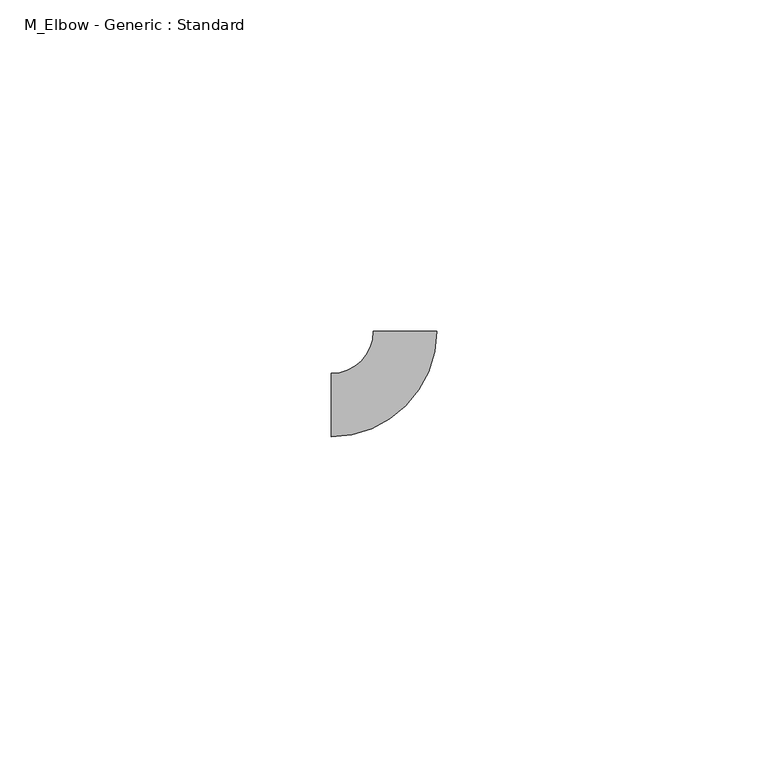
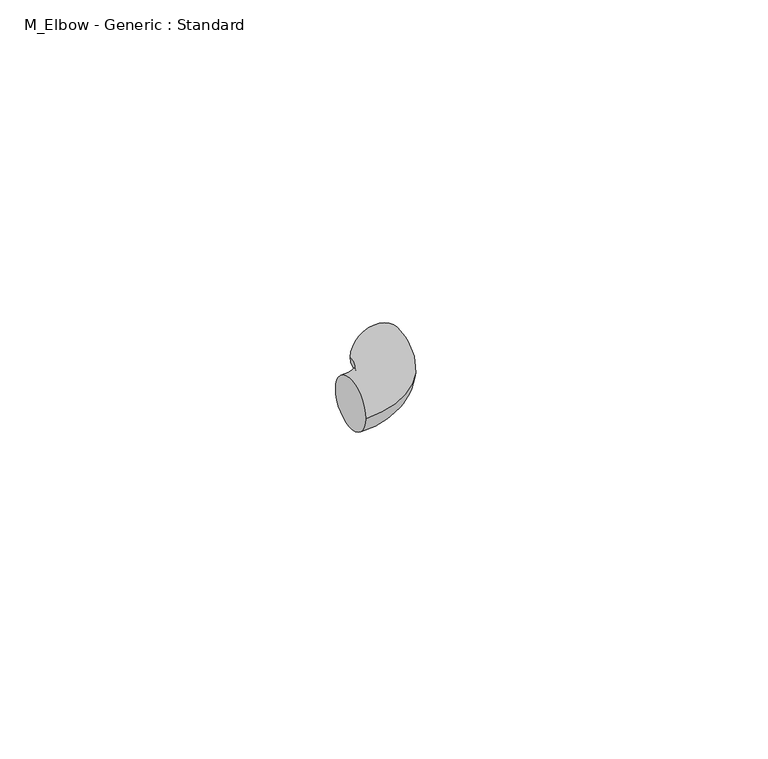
"""IFC4 building model written with IfcOpenShell, lengths in millimetres: pipe fitting geometry, M_Elbow - Generic : Standard."""

from ifc_helpers import new_model, si_unit, point, frame, origin, place, context, project, spatial, circle_curve, ellipse_curve, trimmed, source, transform, mapped, element, save
from ifc_brep_helpers import plane_surface, revolved_surface, advanced_brep


def m_elbow_generic_standard_b13e6fab(model_context):
    return source(origin(), model_context, "Body", "AdvancedBrep", [
        advanced_brep(
        [(-11.1118614, -4.7625, 0.0), (-11.1118614, 4.7625, 0.0), (4.7631385, 11.1115877, 0.0), (-4.7618614, 11.1121351, 0.0)],
        [
            (0, 1, circle_curve(frame((-11.1118614, 0.0, 0.0), z_axis=(-1.0, 0.0, 0.0), x_axis=(0.0, 1.0, 0.0)), 4.7625)),
            (1, 0, circle_curve(frame((-11.1118614, 0.0, 0.0), z_axis=(-1.0, 0.0, 0.0), x_axis=(0.0, 1.0, 0.0)), 4.7625)),
            (2, 3, circle_curve(frame((0.0006386, 11.1118614, 0.0), z_axis=(5.746588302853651e-05, 0.9999999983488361, 0.0), x_axis=(-0.9999999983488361, 5.746588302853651e-05, 0.0)), 4.7625)),
            (3, 2, circle_curve(frame((0.0006386, 11.1118614, 0.0), z_axis=(5.746588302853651e-05, 0.9999999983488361, 0.0), x_axis=(-0.9999999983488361, 5.746588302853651e-05, 0.0)), 4.7625)),
            (3, 1, circle_curve(frame((-11.1118614, 11.1125, 0.0), z_axis=(0.0, 0.0, -1.0), x_axis=(0.0, -1.0, 0.0)), 6.35)),
            (0, 2, circle_curve(frame((-11.1118614, 11.1125, 0.0), z_axis=(0.0, 0.0, 1.0), x_axis=(0.0, -1.0, 0.0)), 15.875)),
        ],
        [
            plane_surface(frame((-11.1118614, 0.0, 0.0), z_axis=(-1.0, 0.0, 0.0), x_axis=(0.0, 0.0, 1.0))),
            plane_surface(frame((0.0006386, 11.1118614, 0.0), z_axis=(5.746588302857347e-05, 0.9999999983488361, 0.0), x_axis=(0.0, 0.0, 1.0))),
            revolved_surface(trimmed(ellipse_curve(frame((-11.1118614, 0.0, 0.0), z_axis=(-1.0, 0.0, 0.0), x_axis=(0.0, 1.0, 0.0)), 4.7625, 4.7625), [point((-11.1118614, -4.7625, 0.0))], [point((-11.1118614, 4.7625, 0.0))], True, "CARTESIAN"), (-11.1118614, 11.1125, 0.0), (0.0, 0.0, 1.0)),
            revolved_surface(trimmed(ellipse_curve(frame((-11.1118614, 0.0, 0.0), z_axis=(-1.0, 0.0, 0.0), x_axis=(0.0, 1.0, 0.0)), 4.7625, 4.7625), [point((-11.1118614, 4.7625, 0.0))], [point((-11.1118614, -4.7625, 0.0))], True, "CARTESIAN"), (-11.1118614, 11.1125, 0.0), (0.0, 0.0, 1.0)),
        ],
        [
            (0, [[1, 2]]),
            (1, [[3, 4]]),
            (2, [[5, -1, 6, -4]]),
            (3, [[-6, -2, -5, -3]]),
        ],
    ),
    ])


if __name__ == "__main__":
    model = new_model("IFC4")
    model_context = context("Model", 3, world=origin())
    ifc_project = project(units=[si_unit("LENGTHUNIT", "METRE", prefix="MILLI")], contexts=[model_context])
    site = spatial("IfcSite", under=ifc_project)
    building = spatial("IfcBuilding", under=site)
    placement = place(None, origin())
    m_elbow_generic_standard_shape = m_elbow_generic_standard_b13e6fab(model_context)
    element("IfcPipeFitting", 1, ObjectType="M_Elbow - Generic : Standard", at=placement, inside=building, context=model_context, shape_type="MappedRepresentation", body=[
        mapped(m_elbow_generic_standard_shape, transform((0.0, 0.0, 0.0), x_axis=(1.0, 0.0, 0.0), y_axis=(0.0, 1.0, 0.0), z_axis=(0.0, 0.0, 1.0))),
    ])
    save(model, "model.ifc")
